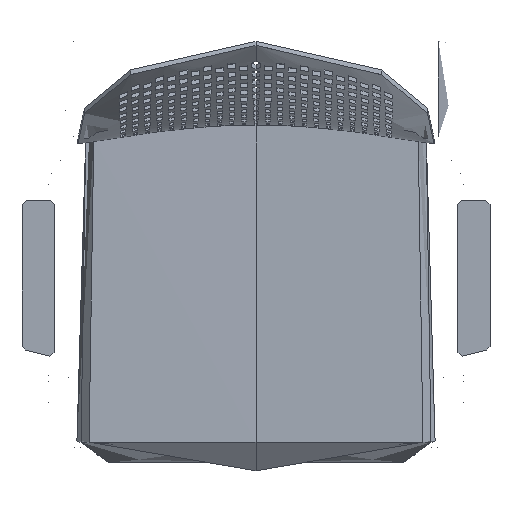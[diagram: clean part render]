
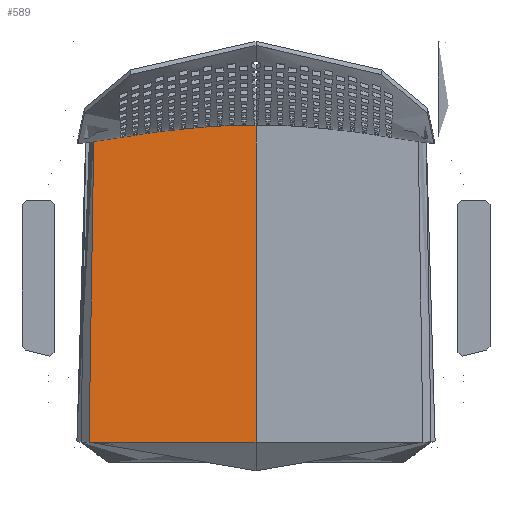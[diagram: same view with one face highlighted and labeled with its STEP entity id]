
A CAD part, top view. The second image highlights one B-rep face of the part: STEP entity #589.
In plain terms, the highlighted free-form (B-spline) face has degree [3, 3] with [4, 6] control points.
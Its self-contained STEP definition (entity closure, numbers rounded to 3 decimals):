
#589=ADVANCED_FACE('',(#1729),#21042,.T.);
#1729=FACE_OUTER_BOUND('',#2869,.T.);
#2869=EDGE_LOOP('',(#4575,#4576,#4577,#4578,#4579));
#4575=ORIENTED_EDGE('',*,*,#11168,.T.);
#4576=ORIENTED_EDGE('',*,*,#11156,.T.);
#4577=ORIENTED_EDGE('',*,*,#11157,.F.);
#4578=ORIENTED_EDGE('',*,*,#11167,.T.);
#4579=ORIENTED_EDGE('',*,*,#11175,.F.);
#11156=EDGE_CURVE('',#17816,#17818,#14626,.T.);
#11157=EDGE_CURVE('',#17817,#17818,#14627,.T.);
#11167=EDGE_CURVE('',#17817,#17824,#14637,.T.);
#11168=EDGE_CURVE('',#17826,#17816,#14638,.T.);
#11175=EDGE_CURVE('',#17826,#17824,#14424,.T.);
#14424=(
BOUNDED_CURVE()
B_SPLINE_CURVE(3,(#26464,#26465,#26466,#26467,#26468,#26469,#26470,#26471,
#26472,#26473,#26474,#26475,#26476,#26477,#26478,#26479,#26480,#26481,#26482,
#26483),.UNSPECIFIED.,.F.,.F.)
B_SPLINE_CURVE_WITH_KNOTS((4,3,3,1,1,1,1,1,1,1,3,4),(-0.392,
-0.39,6.301,10.816,15.904,21.689,
28.102,34.77,41.018,46.433,51.07,
56.446),.UNSPECIFIED.)
CURVE()
GEOMETRIC_REPRESENTATION_ITEM()
RATIONAL_B_SPLINE_CURVE((1.,1.,1.,1.,1.,1.,1.,1.,1.,1.,1.,
1.,1.,1.,1.,1.,1.,1.,1.,1.))
REPRESENTATION_ITEM('')
);
#14626=B_SPLINE_CURVE_WITH_KNOTS('',3,(#26228,#26229,#26230,#26231),
 .UNSPECIFIED.,.F.,.F.,(4,4),(0.,208.2),.UNSPECIFIED.);
#14627=B_SPLINE_CURVE_WITH_KNOTS('',3,(#26232,#26233,#26234,#26235,#26236,
#26237),.UNSPECIFIED.,.F.,.F.,(4,1,1,4),(-469.281,-336.575,
-192.091,-47.607),.UNSPECIFIED.);
#14637=B_SPLINE_CURVE_WITH_KNOTS('',3,(#26377,#26378,#26379,#26380),
 .UNSPECIFIED.,.F.,.F.,(4,4),(0.,169.177),.UNSPECIFIED.);
#14638=B_SPLINE_CURVE_WITH_KNOTS('',3,(#26381,#26382,#26383,#26384,#26385),
 .UNSPECIFIED.,.F.,.F.,(4,1,4),(235.672,614.063,616.504),
 .UNSPECIFIED.);
#17816=VERTEX_POINT('',#26198);
#17817=VERTEX_POINT('',#26199);
#17818=VERTEX_POINT('',#26200);
#17824=VERTEX_POINT('',#26206);
#17826=VERTEX_POINT('',#26208);
#21042=B_SPLINE_SURFACE_WITH_KNOTS('',3,3,((#24204,#24205,#24206,#24207,
#24208,#24209),(#24210,#24211,#24212,#24213,#24214,#24215),(#24216,#24217,
#24218,#24219,#24220,#24221),(#24222,#24223,#24224,#24225,#24226,#24227)),
 .UNSPECIFIED.,.F.,.F.,.F.,(4,4),(4,1,1,4),(0.,208.2),(47.607,
192.091,336.575,469.281),.UNSPECIFIED.);
#24204=CARTESIAN_POINT('',(-207.61,-200.8,469.081));
#24205=CARTESIAN_POINT('',(-206.89,-154.314,468.31));
#24206=CARTESIAN_POINT('',(-205.45,-61.344,466.768));
#24207=CARTESIAN_POINT('',(-203.349,74.323,464.518));
#24208=CARTESIAN_POINT('',(-201.968,163.504,463.038));
#24209=CARTESIAN_POINT('',(-201.307,206.2,462.33));
#24210=CARTESIAN_POINT('',(-138.406,-200.8,467.081));
#24211=CARTESIAN_POINT('',(-137.927,-164.428,466.478));
#24212=CARTESIAN_POINT('',(-136.967,-58.131,457.01));
#24213=CARTESIAN_POINT('',(-135.566,87.116,455.076));
#24214=CARTESIAN_POINT('',(-134.645,173.48,457.765));
#24215=CARTESIAN_POINT('',(-134.204,212.878,459.041));
#24216=CARTESIAN_POINT('',(-69.203,-200.8,466.081));
#24217=CARTESIAN_POINT('',(-68.963,-169.485,465.562));
#24218=CARTESIAN_POINT('',(-68.483,-56.525,452.131));
#24219=CARTESIAN_POINT('',(-67.783,93.513,450.355));
#24220=CARTESIAN_POINT('',(-67.323,178.468,455.129));
#24221=CARTESIAN_POINT('',(-67.102,216.217,457.396));
#24222=CARTESIAN_POINT('',(0.,-200.8,466.081));
#24223=CARTESIAN_POINT('',(0.,-169.485,465.562));
#24224=CARTESIAN_POINT('',(0.,-56.525,452.131));
#24225=CARTESIAN_POINT('',(0.,93.513,450.355));
#24226=CARTESIAN_POINT('',(0.,178.468,455.129));
#24227=CARTESIAN_POINT('',(0.,216.217,457.396));
#26198=CARTESIAN_POINT('',(-207.61,-200.8,469.081));
#26199=CARTESIAN_POINT('',(0.,216.217,457.396));
#26200=CARTESIAN_POINT('',(0.,-200.8,466.081));
#26206=CARTESIAN_POINT('',(-166.693,209.35,460.779));
#26208=CARTESIAN_POINT('',(-201.765,176.772,462.819));
#26228=CARTESIAN_POINT('',(-207.61,-200.8,469.081));
#26229=CARTESIAN_POINT('',(-138.406,-200.8,467.081));
#26230=CARTESIAN_POINT('',(-69.203,-200.8,466.081));
#26231=CARTESIAN_POINT('',(0.,-200.8,466.081));
#26232=CARTESIAN_POINT('',(0.,216.217,457.396));
#26233=CARTESIAN_POINT('',(0.,178.468,455.129));
#26234=CARTESIAN_POINT('',(0.,93.513,450.355));
#26235=CARTESIAN_POINT('',(0.,-56.525,452.131));
#26236=CARTESIAN_POINT('',(0.,-169.485,465.562));
#26237=CARTESIAN_POINT('',(0.,-200.8,466.081));
#26377=CARTESIAN_POINT('',(0.,216.217,457.396));
#26378=CARTESIAN_POINT('',(-55.652,216.219,457.396));
#26379=CARTESIAN_POINT('',(-111.239,213.917,458.528));
#26380=CARTESIAN_POINT('',(-166.693,209.35,460.779));
#26381=CARTESIAN_POINT('',(-201.765,176.772,462.819));
#26382=CARTESIAN_POINT('',(-203.697,51.693,464.897));
#26383=CARTESIAN_POINT('',(-205.651,-74.287,466.969));
#26384=CARTESIAN_POINT('',(-207.595,-199.785,469.083));
#26385=CARTESIAN_POINT('',(-207.61,-200.8,469.081));
#26464=CARTESIAN_POINT('',(-201.765,176.772,462.819));
#26465=CARTESIAN_POINT('',(-201.764,176.772,462.819));
#26466=CARTESIAN_POINT('',(-201.763,176.772,462.819));
#26467=CARTESIAN_POINT('',(-201.762,176.772,462.819));
#26468=CARTESIAN_POINT('',(-199.541,176.811,462.669));
#26469=CARTESIAN_POINT('',(-197.319,176.863,462.52));
#26470=CARTESIAN_POINT('',(-195.1,176.969,462.373));
#26471=CARTESIAN_POINT('',(-193.602,177.041,462.274));
#26472=CARTESIAN_POINT('',(-190.422,177.258,462.064));
#26473=CARTESIAN_POINT('',(-185.365,178.026,461.733));
#26474=CARTESIAN_POINT('',(-179.891,179.81,461.385));
#26475=CARTESIAN_POINT('',(-174.545,183.167,461.064));
#26476=CARTESIAN_POINT('',(-170.339,188.106,460.842));
#26477=CARTESIAN_POINT('',(-167.892,193.742,460.742));
#26478=CARTESIAN_POINT('',(-166.881,199.09,460.725));
#26479=CARTESIAN_POINT('',(-166.675,202.435,460.736));
#26480=CARTESIAN_POINT('',(-166.633,203.979,460.744));
#26481=CARTESIAN_POINT('',(-166.59,205.769,460.753));
#26482=CARTESIAN_POINT('',(-166.606,207.562,460.765));
#26483=CARTESIAN_POINT('',(-166.693,209.35,460.779));
